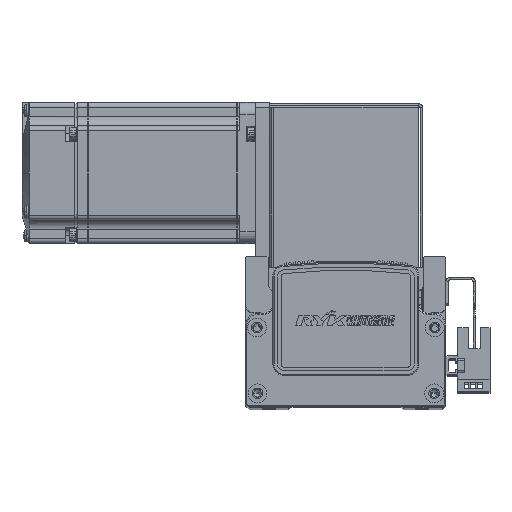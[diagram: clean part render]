
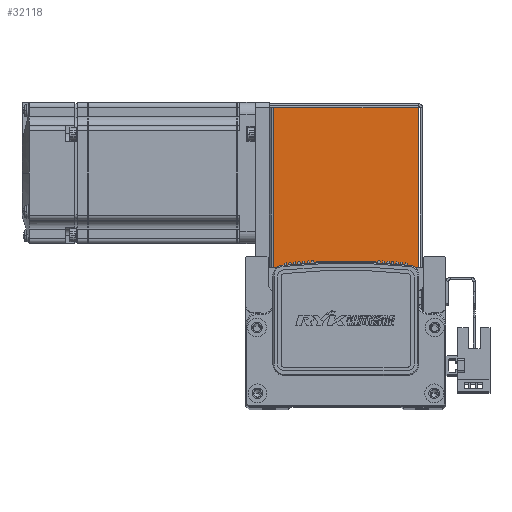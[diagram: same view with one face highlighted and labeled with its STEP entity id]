
A CAD part, top view. The second image highlights one B-rep face of the part: STEP entity #32118.
In plain terms, the highlighted planar face has unit normal (0, 0, 1).
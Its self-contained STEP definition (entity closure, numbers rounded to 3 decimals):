
#775 = EDGE_CURVE ( 'NONE', #13834, #13901, #62655, .T. ) ;
#810 = EDGE_CURVE ( 'NONE', #13838, #13901, #62775, .T. ) ;
#826 = EDGE_CURVE ( 'NONE', #13904, #13838, #62809, .T. ) ;
#833 = EDGE_CURVE ( 'NONE', #13904, #13834, #62793, .T. ) ;
#4223 = DIRECTION ( 'NONE',  ( 0., 0., -1. ) ) ;
#4310 = DIRECTION ( 'NONE',  ( -1., 0., 0. ) ) ;
#13834 = VERTEX_POINT ( 'NONE', #54278 ) ;
#13838 = VERTEX_POINT ( 'NONE', #54290 ) ;
#13901 = VERTEX_POINT ( 'NONE', #54340 ) ;
#13904 = VERTEX_POINT ( 'NONE', #54342 ) ;
#18574 = FACE_OUTER_BOUND ( 'NONE', #69958, .T. ) ;
#27078 = ORIENTED_EDGE ( 'NONE', *, *, #810, .F. ) ;
#27081 = ORIENTED_EDGE ( 'NONE', *, *, #826, .F. ) ;
#27158 = ORIENTED_EDGE ( 'NONE', *, *, #775, .T. ) ;
#27166 = ORIENTED_EDGE ( 'NONE', *, *, #833, .T. ) ;
#30394 = PLANE ( 'NONE',  #47026 ) ;
#32118 = ADVANCED_FACE ( 'NONE', ( #18574 ), #30394, .F. ) ;
#38863 = CARTESIAN_POINT ( 'NONE',  ( 0., 0., 35. ) ) ;
#45380 = CARTESIAN_POINT ( 'NONE',  ( 0., 68.5, 35. ) ) ;
#45402 = DIRECTION ( 'NONE',  ( -1., 0., 0. ) ) ;
#45476 = DIRECTION ( 'NONE',  ( 0., 1., 0. ) ) ;
#45497 = CARTESIAN_POINT ( 'NONE',  ( -30.793, 0., 35. ) ) ;
#45563 = DIRECTION ( 'NONE',  ( 0., 1., 0. ) ) ;
#45577 = DIRECTION ( 'NONE',  ( -1., 0., 0. ) ) ;
#45594 = CARTESIAN_POINT ( 'NONE',  ( 30.763, 0.737, 35. ) ) ;
#45598 = CARTESIAN_POINT ( 'NONE',  ( -32.5, 0.737, 35. ) ) ;
#47026 = AXIS2_PLACEMENT_3D ( 'NONE', #38863, #4223, #4310 ) ;
#54278 = CARTESIAN_POINT ( 'NONE',  ( 30.763, 68.5, 35. ) ) ;
#54290 = CARTESIAN_POINT ( 'NONE',  ( -30.793, 0.737, 35. ) ) ;
#54340 = CARTESIAN_POINT ( 'NONE',  ( -30.793, 68.5, 35. ) ) ;
#54342 = CARTESIAN_POINT ( 'NONE',  ( 30.763, 0.737, 35. ) ) ;
#62655 = LINE ( 'NONE', #45380, #62657 ) ;
#62657 = VECTOR ( 'NONE', #45402, 1000. ) ;
#62775 = LINE ( 'NONE', #45497, #62823 ) ;
#62781 = VECTOR ( 'NONE', #45563, 1000. ) ;
#62793 = LINE ( 'NONE', #45594, #62781 ) ;
#62809 = LINE ( 'NONE', #45598, #62821 ) ;
#62821 = VECTOR ( 'NONE', #45577, 1000. ) ;
#62823 = VECTOR ( 'NONE', #45476, 1000. ) ;
#69958 = EDGE_LOOP ( 'NONE', ( #27166, #27158, #27078, #27081 ) ) ;
